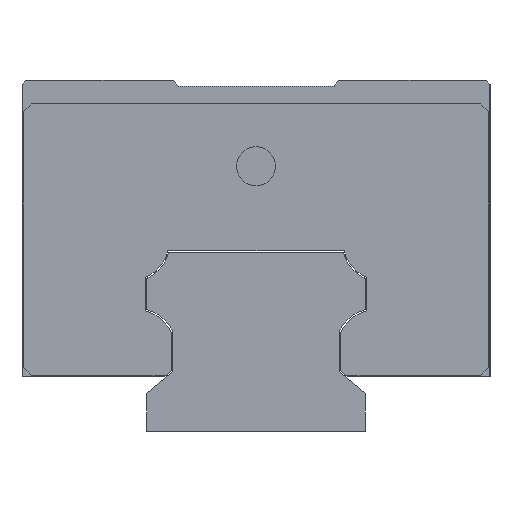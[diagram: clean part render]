
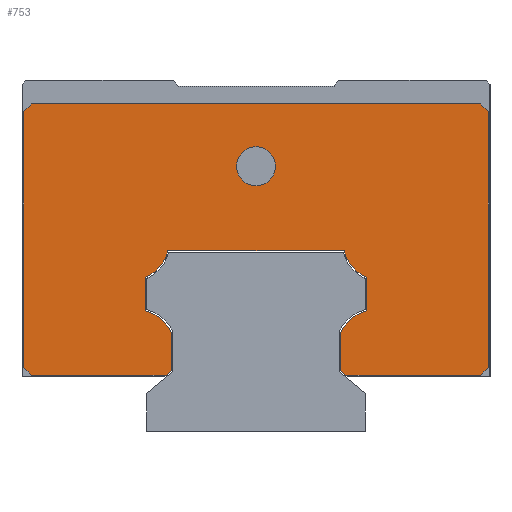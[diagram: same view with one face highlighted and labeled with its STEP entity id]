
A CAD part, left-side view. The second image highlights one B-rep face of the part: STEP entity #753.
In plain terms, the highlighted planar face has unit normal (-1, 0, 0).
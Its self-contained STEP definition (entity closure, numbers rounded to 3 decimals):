
#588=FACE_BOUND('',#1031,.T.);
#589=FACE_BOUND('',#1032,.T.);
#753=ADVANCED_FACE('',(#588,#589),#873,.F.);
#873=PLANE('',#2689);
#1031=EDGE_LOOP('',(#1374));
#1032=EDGE_LOOP('',(#1375,#1376,#1377,#1378,#1379,#1380,#1381,#1382,#1383,
#1384,#1385,#1386,#1387,#1388,#1389,#1390,#1391,#1392,#1393,#1394));
#1196=CIRCLE('',#2673,4.962);
#1197=CIRCLE('',#2676,4.962);
#1198=CIRCLE('',#2679,4.962);
#1199=CIRCLE('',#2682,4.962);
#1200=CIRCLE('',#2688,2.5);
#1374=ORIENTED_EDGE('',*,*,#2099,.F.);
#1375=ORIENTED_EDGE('',*,*,#2097,.F.);
#1376=ORIENTED_EDGE('',*,*,#2100,.T.);
#1377=ORIENTED_EDGE('',*,*,#2092,.F.);
#1378=ORIENTED_EDGE('',*,*,#2091,.F.);
#1379=ORIENTED_EDGE('',*,*,#2084,.F.);
#1380=ORIENTED_EDGE('',*,*,#2078,.F.);
#1381=ORIENTED_EDGE('',*,*,#2077,.F.);
#1382=ORIENTED_EDGE('',*,*,#2069,.F.);
#1383=ORIENTED_EDGE('',*,*,#2068,.F.);
#1384=ORIENTED_EDGE('',*,*,#2060,.F.);
#1385=ORIENTED_EDGE('',*,*,#2059,.F.);
#1386=ORIENTED_EDGE('',*,*,#2051,.F.);
#1387=ORIENTED_EDGE('',*,*,#2049,.F.);
#1388=ORIENTED_EDGE('',*,*,#2044,.F.);
#1389=ORIENTED_EDGE('',*,*,#2036,.F.);
#1390=ORIENTED_EDGE('',*,*,#2101,.T.);
#1391=ORIENTED_EDGE('',*,*,#2032,.F.);
#1392=ORIENTED_EDGE('',*,*,#2102,.T.);
#1393=ORIENTED_EDGE('',*,*,#2028,.F.);
#1394=ORIENTED_EDGE('',*,*,#2103,.T.);
#1832=VERTEX_POINT('',#3503);
#1833=VERTEX_POINT('',#3505);
#1836=VERTEX_POINT('',#3512);
#1837=VERTEX_POINT('',#3514);
#1840=VERTEX_POINT('',#3521);
#1841=VERTEX_POINT('',#3523);
#1842=VERTEX_POINT('',#3527);
#1848=VERTEX_POINT('',#3541);
#1853=VERTEX_POINT('',#3553);
#1854=VERTEX_POINT('',#3557);
#1859=VERTEX_POINT('',#3570);
#1860=VERTEX_POINT('',#3574);
#1865=VERTEX_POINT('',#3587);
#1866=VERTEX_POINT('',#3591);
#1871=VERTEX_POINT('',#3604);
#1872=VERTEX_POINT('',#3608);
#1876=VERTEX_POINT('',#3618);
#1882=VERTEX_POINT('',#3632);
#1886=VERTEX_POINT('',#3641);
#1887=VERTEX_POINT('',#3643);
#1888=VERTEX_POINT('',#3647);
#2028=EDGE_CURVE('',#1832,#1833,#2297,.T.);
#2032=EDGE_CURVE('',#1836,#1837,#2301,.T.);
#2036=EDGE_CURVE('',#1840,#1841,#2305,.T.);
#2044=EDGE_CURVE('',#1841,#1842,#2313,.T.);
#2049=EDGE_CURVE('',#1842,#1848,#2318,.T.);
#2051=EDGE_CURVE('',#1848,#1853,#1196,.T.);
#2059=EDGE_CURVE('',#1853,#1854,#2326,.T.);
#2060=EDGE_CURVE('',#1854,#1859,#1197,.T.);
#2068=EDGE_CURVE('',#1859,#1860,#2334,.T.);
#2069=EDGE_CURVE('',#1860,#1865,#1198,.T.);
#2077=EDGE_CURVE('',#1865,#1866,#2342,.T.);
#2078=EDGE_CURVE('',#1866,#1871,#1199,.T.);
#2084=EDGE_CURVE('',#1871,#1872,#2348,.T.);
#2091=EDGE_CURVE('',#1872,#1876,#2355,.T.);
#2092=EDGE_CURVE('',#1876,#1882,#2356,.T.);
#2097=EDGE_CURVE('',#1886,#1887,#2361,.T.);
#2099=EDGE_CURVE('',#1888,#1888,#1200,.T.);
#2100=EDGE_CURVE('',#1886,#1882,#2363,.T.);
#2101=EDGE_CURVE('',#1840,#1837,#2364,.T.);
#2102=EDGE_CURVE('',#1836,#1833,#2365,.T.);
#2103=EDGE_CURVE('',#1832,#1887,#2366,.T.);
#2297=LINE('',#3504,#2481);
#2301=LINE('',#3513,#2485);
#2305=LINE('',#3522,#2489);
#2313=LINE('',#3538,#2497);
#2318=LINE('',#3548,#2502);
#2326=LINE('',#3567,#2510);
#2334=LINE('',#3584,#2518);
#2342=LINE('',#3601,#2526);
#2348=LINE('',#3615,#2532);
#2355=LINE('',#3629,#2539);
#2356=LINE('',#3631,#2540);
#2361=LINE('',#3642,#2545);
#2363=LINE('',#3648,#2547);
#2364=LINE('',#3649,#2548);
#2365=LINE('',#3650,#2549);
#2366=LINE('',#3651,#2550);
#2481=VECTOR('',#2892,1.);
#2485=VECTOR('',#2898,1.);
#2489=VECTOR('',#2904,1.);
#2497=VECTOR('',#2914,1.);
#2502=VECTOR('',#2921,1.);
#2510=VECTOR('',#2937,1.);
#2518=VECTOR('',#2951,1.);
#2526=VECTOR('',#2965,1.);
#2532=VECTOR('',#2977,1.);
#2539=VECTOR('',#2986,1.);
#2540=VECTOR('',#2989,1.);
#2545=VECTOR('',#2996,1.);
#2547=VECTOR('',#3002,1.);
#2548=VECTOR('',#3003,1.);
#2549=VECTOR('',#3004,1.);
#2550=VECTOR('',#3005,1.);
#2673=AXIS2_PLACEMENT_3D('',#3552,#2926,#2927);
#2676=AXIS2_PLACEMENT_3D('',#3569,#2940,#2941);
#2679=AXIS2_PLACEMENT_3D('',#3586,#2954,#2955);
#2682=AXIS2_PLACEMENT_3D('',#3603,#2968,#2969);
#2688=AXIS2_PLACEMENT_3D('',#3646,#3000,#3001);
#2689=AXIS2_PLACEMENT_3D('',#3652,#3006,#3007);
#2892=DIRECTION('',(0.,-1.,0.));
#2898=DIRECTION('',(0.,0.,-1.));
#2904=DIRECTION('',(0.,1.,0.));
#2914=DIRECTION('',(0.,0.766,0.643));
#2921=DIRECTION('',(0.,0.,1.));
#2926=DIRECTION('',(1.,0.,0.));
#2927=DIRECTION('',(0.,1.,0.));
#2937=DIRECTION('',(0.,0.,1.));
#2940=DIRECTION('',(1.,0.,0.));
#2941=DIRECTION('',(0.,1.,0.));
#2951=DIRECTION('',(0.,1.,0.));
#2954=DIRECTION('',(1.,0.,0.));
#2955=DIRECTION('',(0.,-1.,0.));
#2965=DIRECTION('',(0.,0.,-1.));
#2968=DIRECTION('',(1.,0.,0.));
#2969=DIRECTION('',(0.,-1.,0.));
#2977=DIRECTION('',(0.,0.,-1.));
#2986=DIRECTION('',(0.,0.766,-0.643));
#2989=DIRECTION('',(0.,1.,0.));
#2996=DIRECTION('',(0.,0.,1.));
#3000=DIRECTION('',(-1.,0.,0.));
#3001=DIRECTION('',(0.,1.,0.));
#3002=DIRECTION('',(0.,-0.707,-0.707));
#3003=DIRECTION('',(0.,-0.707,0.707));
#3004=DIRECTION('',(0.,0.707,0.707));
#3005=DIRECTION('',(0.,0.707,-0.707));
#3006=DIRECTION('',(1.,0.,0.));
#3007=DIRECTION('',(0.,0.,-1.));
#3503=CARTESIAN_POINT('',(-48.15,28.8,42.));
#3504=CARTESIAN_POINT('',(-48.15,29.8,42.));
#3505=CARTESIAN_POINT('',(-48.15,-28.8,42.));
#3512=CARTESIAN_POINT('',(-48.15,-29.8,41.));
#3513=CARTESIAN_POINT('',(-48.15,-29.8,42.));
#3514=CARTESIAN_POINT('',(-48.15,-29.8,8.2));
#3521=CARTESIAN_POINT('',(-48.15,-28.8,7.2));
#3522=CARTESIAN_POINT('',(-48.15,-29.8,7.2));
#3523=CARTESIAN_POINT('',(-48.15,-11.53,7.2));
#3527=CARTESIAN_POINT('',(-48.15,-10.863,7.76));
#3538=CARTESIAN_POINT('',(-48.15,-11.53,7.2));
#3541=CARTESIAN_POINT('',(-48.15,-10.863,12.685));
#3548=CARTESIAN_POINT('',(-48.15,-10.863,7.76));
#3552=CARTESIAN_POINT('',(-48.15,-15.397,10.669));
#3553=CARTESIAN_POINT('',(-48.15,-14.2,15.485));
#3557=CARTESIAN_POINT('',(-48.15,-14.2,19.736));
#3567=CARTESIAN_POINT('',(-48.15,-14.2,15.485));
#3569=CARTESIAN_POINT('',(-48.15,-16.13,24.307));
#3570=CARTESIAN_POINT('',(-48.15,-11.293,23.2));
#3574=CARTESIAN_POINT('',(-48.15,11.293,23.2));
#3584=CARTESIAN_POINT('',(-48.15,-11.293,23.2));
#3586=CARTESIAN_POINT('',(-48.15,16.13,24.307));
#3587=CARTESIAN_POINT('',(-48.15,14.2,19.736));
#3591=CARTESIAN_POINT('',(-48.15,14.2,15.485));
#3601=CARTESIAN_POINT('',(-48.15,14.2,19.736));
#3603=CARTESIAN_POINT('',(-48.15,15.397,10.669));
#3604=CARTESIAN_POINT('',(-48.15,10.863,12.685));
#3608=CARTESIAN_POINT('',(-48.15,10.863,7.76));
#3615=CARTESIAN_POINT('',(-48.15,10.863,12.685));
#3618=CARTESIAN_POINT('',(-48.15,11.53,7.2));
#3629=CARTESIAN_POINT('',(-48.15,10.863,7.76));
#3631=CARTESIAN_POINT('',(-48.15,11.53,7.2));
#3632=CARTESIAN_POINT('',(-48.15,28.8,7.2));
#3641=CARTESIAN_POINT('',(-48.15,29.8,8.2));
#3642=CARTESIAN_POINT('',(-48.15,29.8,7.2));
#3643=CARTESIAN_POINT('',(-48.15,29.8,41.));
#3646=CARTESIAN_POINT('',(-48.15,0.,34.));
#3647=CARTESIAN_POINT('',(-48.15,2.5,34.));
#3648=CARTESIAN_POINT('',(-48.15,28.8,7.2));
#3649=CARTESIAN_POINT('',(-48.15,-29.8,8.2));
#3650=CARTESIAN_POINT('',(-48.15,-28.8,42.));
#3651=CARTESIAN_POINT('',(-48.15,29.8,41.));
#3652=CARTESIAN_POINT('',(-48.15,-15.397,10.669));
